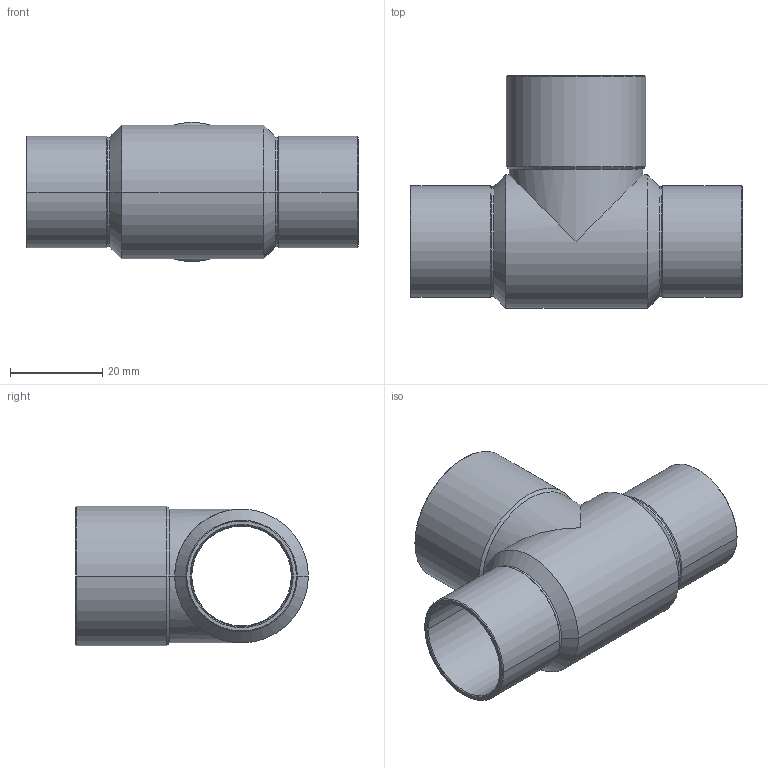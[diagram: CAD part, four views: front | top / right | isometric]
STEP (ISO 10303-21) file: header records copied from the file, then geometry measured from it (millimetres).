
FILE_DESCRIPTION((''),'2;1');
FILE_NAME('P:\Bouwmaten\z-maattekeningen 3D\5000\5130\5130222822.stp','2005-10-26T11:53:54',('Kris'),(''),'Autodesk Inventor 8','Autodesk Inventor 8','');
FILE_SCHEMA(('AUTOMOTIVE_DESIGN { 1 0 10303 214 1 1 1 1 }'));
Length unit declared in the file: millimetre
Products named in the file (1): 5130222822
Bounding box: 72 x 50.5 x 30.2 mm (x, y, z)
Volume: 8303.7 mm3; surface area: 15391.7 mm2
Topology: 1 solids, 1 shells, 63 faces, 134 edges, 72 vertices
Faces by surface type: cone 32, cylinder 28, plane 3
Entity records: 1695 total; most frequent: DIRECTION 334, CARTESIAN_POINT 270, ORIENTED_EDGE 268, AXIS2_PLACEMENT_3D 136, EDGE_CURVE 134, VERTEX_POINT 72, EDGE_LOOP 66, CIRCLE 64
